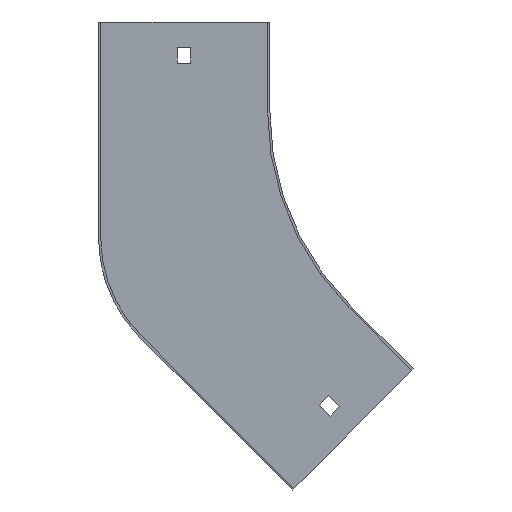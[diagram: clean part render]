
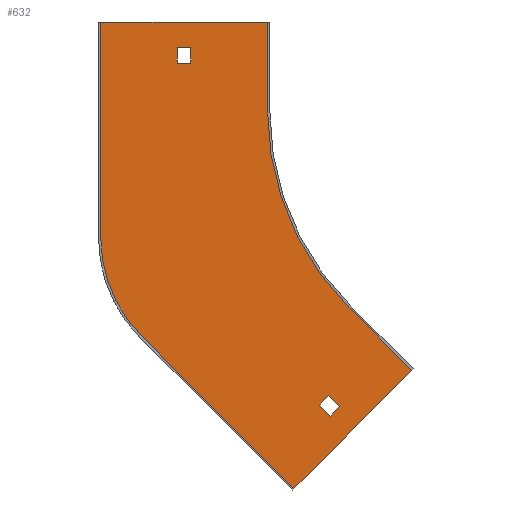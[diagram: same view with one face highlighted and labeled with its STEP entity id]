
A CAD part, front view. The second image highlights one B-rep face of the part: STEP entity #632.
In plain terms, the highlighted planar face has unit normal (0, -1, 0).
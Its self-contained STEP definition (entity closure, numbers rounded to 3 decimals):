
#5 = DIRECTION ( 'NONE',  ( 0., 0., 1. ) ) ;
#8 = EDGE_CURVE ( 'NONE', #805, #811, #110, .T. ) ;
#15 = LINE ( 'NONE', #363, #336 ) ;
#16 = LINE ( 'NONE', #159, #189 ) ;
#34 = FACE_OUTER_BOUND ( 'NONE', #719, .T. ) ;
#42 = ORIENTED_EDGE ( 'NONE', *, *, #148, .F. ) ;
#44 = LINE ( 'NONE', #126, #121 ) ;
#48 = DIRECTION ( 'NONE',  ( 0., 0., -1. ) ) ;
#53 = CARTESIAN_POINT ( 'NONE',  ( -159.5, -1., 28.5 ) ) ;
#63 = CARTESIAN_POINT ( 'NONE',  ( -88.388, -1., -88.388 ) ) ;
#64 = VECTOR ( 'NONE', #655, 1000. ) ;
#68 = DIRECTION ( 'NONE',  ( -0.707, 0., 0.707 ) ) ;
#74 = CARTESIAN_POINT ( 'NONE',  ( -159.5, -1., 21.5 ) ) ;
#78 = VERTEX_POINT ( 'NONE', #627 ) ;
#85 = DIRECTION ( 'NONE',  ( 0., 0., 1. ) ) ;
#110 = LINE ( 'NONE', #432, #755 ) ;
#118 = ORIENTED_EDGE ( 'NONE', *, *, #8, .F. ) ;
#121 = VECTOR ( 'NONE', #645, 1000. ) ;
#126 = CARTESIAN_POINT ( 'NONE',  ( -113.137, -1., -169.706 ) ) ;
#127 = VERTEX_POINT ( 'NONE', #552 ) ;
#132 = VERTEX_POINT ( 'NONE', #544 ) ;
#133 = CARTESIAN_POINT ( 'NONE',  ( 0., -1., 21.5 ) ) ;
#135 = AXIS2_PLACEMENT_3D ( 'NONE', #783, #641, #48 ) ;
#140 = LINE ( 'NONE', #796, #604 ) ;
#142 = LINE ( 'NONE', #465, #271 ) ;
#143 = ORIENTED_EDGE ( 'NONE', *, *, #312, .F. ) ;
#148 = EDGE_CURVE ( 'NONE', #549, #172, #16, .T. ) ;
#151 = DIRECTION ( 'NONE',  ( 0., 0., -1. ) ) ;
#159 = CARTESIAN_POINT ( 'NONE',  ( -200., -1., -56.954 ) ) ;
#172 = VERTEX_POINT ( 'NONE', #618 ) ;
#178 = ORIENTED_EDGE ( 'NONE', *, *, #211, .F. ) ;
#179 = CARTESIAN_POINT ( 'NONE',  ( -117.026, -1., -117.026 ) ) ;
#182 = DIRECTION ( 'NONE',  ( -0.707, 0., -0.707 ) ) ;
#184 = EDGE_CURVE ( 'NONE', #127, #549, #758, .T. ) ;
#189 = VECTOR ( 'NONE', #85, 1000. ) ;
#190 = VECTOR ( 'NONE', #847, 1000. ) ;
#192 = VERTEX_POINT ( 'NONE', #511 ) ;
#200 = CARTESIAN_POINT ( 'NONE',  ( -96.874, -1., -137.179 ) ) ;
#207 = CARTESIAN_POINT ( 'NONE',  ( -165.5, -1., 21.5 ) ) ;
#211 = EDGE_CURVE ( 'NONE', #192, #438, #490, .T. ) ;
#226 = ORIENTED_EDGE ( 'NONE', *, *, #339, .T. ) ;
#228 = EDGE_CURVE ( 'NONE', #78, #127, #44, .T. ) ;
#234 = CARTESIAN_POINT ( 'NONE',  ( -125., -1., 40. ) ) ;
#236 = ORIENTED_EDGE ( 'NONE', *, *, #826, .T. ) ;
#237 = LINE ( 'NONE', #245, #435 ) ;
#245 = CARTESIAN_POINT ( 'NONE',  ( 15.203, -1., -15.203 ) ) ;
#252 = EDGE_CURVE ( 'NONE', #467, #192, #514, .T. ) ;
#253 = FACE_BOUND ( 'NONE', #536, .T. ) ;
#271 = VECTOR ( 'NONE', #68, 1000. ) ;
#292 = CARTESIAN_POINT ( 'NONE',  ( -101.823, -1., -132.229 ) ) ;
#293 = CARTESIAN_POINT ( 'NONE',  ( -137.5, -1., -56.954 ) ) ;
#294 = ORIENTED_EDGE ( 'NONE', *, *, #623, .T. ) ;
#312 = EDGE_CURVE ( 'NONE', #172, #467, #456, .T. ) ;
#324 = AXIS2_PLACEMENT_3D ( 'NONE', #844, #430, #766 ) ;
#327 = LINE ( 'NONE', #728, #773 ) ;
#329 = LINE ( 'NONE', #133, #814 ) ;
#336 = VECTOR ( 'NONE', #151, 1000. ) ;
#339 = EDGE_CURVE ( 'NONE', #383, #656, #327, .T. ) ;
#363 = CARTESIAN_POINT ( 'NONE',  ( -159.5, -1., 0. ) ) ;
#368 = FACE_BOUND ( 'NONE', #620, .T. ) ;
#372 = LINE ( 'NONE', #835, #190 ) ;
#375 = CARTESIAN_POINT ( 'NONE',  ( -88.388, -1., -88.388 ) ) ;
#380 = DIRECTION ( 'NONE',  ( 0.707, 0., -0.707 ) ) ;
#383 = VERTEX_POINT ( 'NONE', #207 ) ;
#385 = CARTESIAN_POINT ( 'NONE',  ( -125., -1., 40. ) ) ;
#389 = EDGE_CURVE ( 'NONE', #811, #834, #142, .T. ) ;
#430 = DIRECTION ( 'NONE',  ( 0., -1., 0. ) ) ;
#432 = CARTESIAN_POINT ( 'NONE',  ( 20.153, -1., -20.153 ) ) ;
#435 = VECTOR ( 'NONE', #182, 1000. ) ;
#438 = VERTEX_POINT ( 'NONE', #63 ) ;
#452 = DIRECTION ( 'NONE',  ( 1., 0., 0. ) ) ;
#456 = LINE ( 'NONE', #590, #518 ) ;
#465 = CARTESIAN_POINT ( 'NONE',  ( -112.784, -1., -112.784 ) ) ;
#467 = VERTEX_POINT ( 'NONE', #234 ) ;
#490 = CIRCLE ( 'NONE', #135, 125. ) ;
#494 = EDGE_CURVE ( 'NONE', #677, #765, #15, .T. ) ;
#504 = VERTEX_POINT ( 'NONE', #292 ) ;
#510 = LINE ( 'NONE', #375, #731 ) ;
#511 = CARTESIAN_POINT ( 'NONE',  ( -125., -1., 0. ) ) ;
#514 = LINE ( 'NONE', #385, #64 ) ;
#517 = ORIENTED_EDGE ( 'NONE', *, *, #637, .F. ) ;
#518 = VECTOR ( 'NONE', #452, 1000. ) ;
#536 = EDGE_LOOP ( 'NONE', ( #857, #118, #652, #517 ) ) ;
#544 = CARTESIAN_POINT ( 'NONE',  ( -60.104, -1., -116.673 ) ) ;
#549 = VERTEX_POINT ( 'NONE', #763 ) ;
#552 = CARTESIAN_POINT ( 'NONE',  ( -181.694, -1., -101.149 ) ) ;
#559 = DIRECTION ( 'NONE',  ( 0., 1., 0. ) ) ;
#561 = AXIS2_PLACEMENT_3D ( 'NONE', #293, #559, #827 ) ;
#563 = ORIENTED_EDGE ( 'NONE', *, *, #494, .T. ) ;
#577 = DIRECTION ( 'NONE',  ( 0.707, 0., -0.707 ) ) ;
#590 = CARTESIAN_POINT ( 'NONE',  ( -201., -1., 40. ) ) ;
#604 = VECTOR ( 'NONE', #739, 1000. ) ;
#611 = EDGE_CURVE ( 'NONE', #504, #805, #712, .T. ) ;
#618 = CARTESIAN_POINT ( 'NONE',  ( -200., -1., 40. ) ) ;
#620 = EDGE_LOOP ( 'NONE', ( #294, #563, #236, #226 ) ) ;
#623 = EDGE_CURVE ( 'NONE', #656, #677, #372, .T. ) ;
#627 = CARTESIAN_POINT ( 'NONE',  ( -113.137, -1., -169.706 ) ) ;
#632 = ADVANCED_FACE ( 'NONE', ( #253, #34, #368 ), #636, .T. ) ;
#636 = PLANE ( 'NONE',  #324 ) ;
#637 = EDGE_CURVE ( 'NONE', #834, #504, #237, .T. ) ;
#640 = CARTESIAN_POINT ( 'NONE',  ( -165.5, -1., 28.5 ) ) ;
#641 = DIRECTION ( 'NONE',  ( 0., -1., 0. ) ) ;
#645 = DIRECTION ( 'NONE',  ( -0.707, 0., 0.707 ) ) ;
#648 = VECTOR ( 'NONE', #380, 1000. ) ;
#652 = ORIENTED_EDGE ( 'NONE', *, *, #611, .F. ) ;
#655 = DIRECTION ( 'NONE',  ( 0., 0., -1. ) ) ;
#656 = VERTEX_POINT ( 'NONE', #640 ) ;
#657 = CARTESIAN_POINT ( 'NONE',  ( -97.581, -1., -127.986 ) ) ;
#669 = ORIENTED_EDGE ( 'NONE', *, *, #708, .F. ) ;
#677 = VERTEX_POINT ( 'NONE', #53 ) ;
#708 = EDGE_CURVE ( 'NONE', #438, #132, #510, .T. ) ;
#712 = LINE ( 'NONE', #179, #648 ) ;
#719 = EDGE_LOOP ( 'NONE', ( #143, #42, #852, #799, #769, #669, #178, #795 ) ) ;
#728 = CARTESIAN_POINT ( 'NONE',  ( -165.5, -1., 0. ) ) ;
#731 = VECTOR ( 'NONE', #577, 1000. ) ;
#739 = DIRECTION ( 'NONE',  ( -0.707, 0., -0.707 ) ) ;
#755 = VECTOR ( 'NONE', #837, 1000. ) ;
#758 = CIRCLE ( 'NONE', #561, 62.5 ) ;
#761 = EDGE_CURVE ( 'NONE', #132, #78, #140, .T. ) ;
#763 = CARTESIAN_POINT ( 'NONE',  ( -200., -1., -56.954 ) ) ;
#765 = VERTEX_POINT ( 'NONE', #74 ) ;
#766 = DIRECTION ( 'NONE',  ( 0., 0., -1. ) ) ;
#769 = ORIENTED_EDGE ( 'NONE', *, *, #761, .F. ) ;
#773 = VECTOR ( 'NONE', #5, 1000. ) ;
#783 = CARTESIAN_POINT ( 'NONE',  ( 0., -1., 0. ) ) ;
#793 = DIRECTION ( 'NONE',  ( -1., 0., 0. ) ) ;
#795 = ORIENTED_EDGE ( 'NONE', *, *, #252, .F. ) ;
#796 = CARTESIAN_POINT ( 'NONE',  ( -59.397, -1., -115.966 ) ) ;
#799 = ORIENTED_EDGE ( 'NONE', *, *, #228, .F. ) ;
#804 = CARTESIAN_POINT ( 'NONE',  ( -92.631, -1., -132.936 ) ) ;
#805 = VERTEX_POINT ( 'NONE', #200 ) ;
#811 = VERTEX_POINT ( 'NONE', #804 ) ;
#814 = VECTOR ( 'NONE', #793, 1000. ) ;
#826 = EDGE_CURVE ( 'NONE', #765, #383, #329, .T. ) ;
#827 = DIRECTION ( 'NONE',  ( 0., 0., -1. ) ) ;
#834 = VERTEX_POINT ( 'NONE', #657 ) ;
#835 = CARTESIAN_POINT ( 'NONE',  ( 0., -1., 28.5 ) ) ;
#837 = DIRECTION ( 'NONE',  ( 0.707, 0., 0.707 ) ) ;
#844 = CARTESIAN_POINT ( 'NONE',  ( 0., -1., 0. ) ) ;
#847 = DIRECTION ( 'NONE',  ( 1., 0., 0. ) ) ;
#852 = ORIENTED_EDGE ( 'NONE', *, *, #184, .F. ) ;
#857 = ORIENTED_EDGE ( 'NONE', *, *, #389, .F. ) ;
